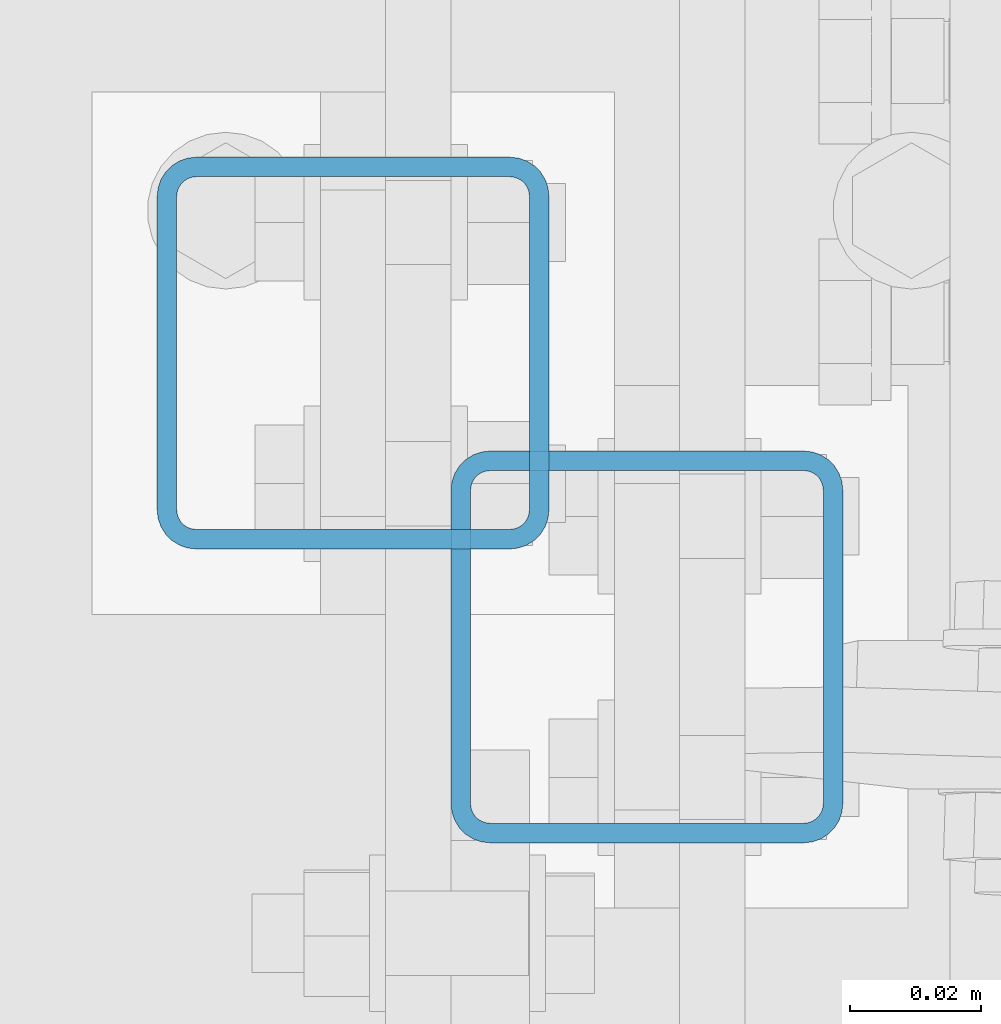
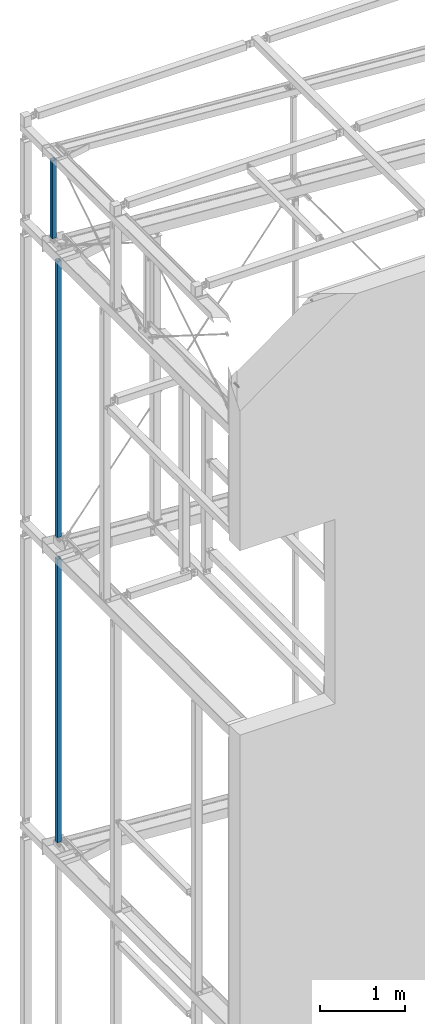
# One storey, part 26 of 271: 3 beams, 3 elements without a shape of their own.
"""IFC2X3 building model written with IfcOpenShell, lengths in millimetres."""

from ifc_helpers import new_model, si_unit, frame, origin_with_axes, origin_2d_with_axis, place, context, subcontext, project, spatial, hollow_rectangle, extrude, clip, halfspace, material, type_object, element, aggregate, save


model = new_model("IFC2X3")

# Units and contexts
model_context = context("Model", 3, precision=1e-05, world=origin_with_axes())
body_context = subcontext(model_context, "Body", "Model", "MODEL_VIEW")
ifc_project = project(units=[si_unit("LENGTHUNIT", "METRE", prefix="MILLI"), si_unit("AREAUNIT", "SQUARE_METRE"), si_unit("VOLUMEUNIT", "CUBIC_METRE"), si_unit("MASSUNIT", "GRAM", prefix="KILO"), si_unit("TIMEUNIT", "SECOND"), si_unit("PLANEANGLEUNIT", "RADIAN"), si_unit("SOLIDANGLEUNIT", "STERADIAN"), si_unit("THERMODYNAMICTEMPERATUREUNIT", "DEGREE_CELSIUS"), si_unit("LUMINOUSINTENSITYUNIT", "LUMEN")], contexts=[model_context])

# Site, building, storey
site_placement = place(None, origin_with_axes())
site = spatial("IfcSite", under=ifc_project, at=site_placement, Name="Undefined", CompositionType="ELEMENT")
building_placement = place(site_placement, origin_with_axes())
building = spatial("IfcBuilding", under=site, at=building_placement, Name="Undefined", CompositionType="ELEMENT")
storey_placement = place(building_placement, origin_with_axes())
storey = spatial("IfcBuildingStorey", under=building, at=storey_placement, Name="Undefined", CompositionType="ELEMENT", Elevation=0.0)

# Assembly, beam
assembly_1_placement = place(storey_placement, origin_with_axes())
assembly_1 = element("IfcElementAssembly", 1, at=assembly_1_placement, inside=storey, AssemblyPlace="NOTDEFINED", PredefinedType="RIGID_FRAME")
ifc_material = material(Name="STEEL/S355JR")
beam_type = type_object("IfcBeamType", Name="SHS60*3", PredefinedType="NOTDEFINED")
beam_1_placement = place(assembly_1_placement, frame((77.9999996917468, 4337.19355050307, 18644.3499999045), z_axis=(0.0, 1.0, 0.0), x_axis=(0.0, 0.0, 1.0)))
beam_1 = element("IfcBeam", 2, at=beam_1_placement, type_object=beam_type, material=ifc_material, Name="TĘŻNIK", ObjectType="SHS60*3", context=body_context, shape_type="Clipping", body=[
    clip(clip(extrude(hollow_rectangle(XDim=60.0, YDim=60.0, WallThickness=3.0, InnerFilletRadius=3.0, OuterFilletRadius=6.0, at=origin_2d_with_axis()), frame((1360.0, 0.0, 0.0), z_axis=(-1.0, 0.0, 1.38777878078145e-17), x_axis=(0.0, -1.0, 0.0)), (0.0, 0.0, 1.0), 1360.0), halfspace(frame((1249.3499999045, 15.0, 0.0), z_axis=(-1.0, 0.0, 1.38777878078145e-17), x_axis=(0.0, 0.0, 1.0)), True)), halfspace(frame((131.299999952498, 15.0, 0.0), z_axis=(1.0, 0.0, 0.0), x_axis=(0.0, 0.0, -1.0)), True)),
])
aggregate(assembly_1, [beam_1])

assembly_2_placement = place(storey_placement, origin_with_axes())
assembly_2 = element("IfcElementAssembly", 3, at=assembly_2_placement, inside=storey, AssemblyPlace="NOTDEFINED", PredefinedType="RIGID_FRAME")
beam_2_placement = place(assembly_2_placement, frame((122.999999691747, 4292.19355050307, 14324.3499999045), z_axis=(0.0, 1.0, 0.0), x_axis=(0.0, 0.0, 1.0)))
beam_2 = element("IfcBeam", 4, at=beam_2_placement, type_object=beam_type, material=ifc_material, Name="TĘŻNIK", ObjectType="SHS60*3", context=body_context, shape_type="Clipping", body=[
    clip(clip(extrude(hollow_rectangle(XDim=60.0, YDim=60.0, WallThickness=3.0, InnerFilletRadius=3.0, OuterFilletRadius=6.0, at=origin_2d_with_axis()), frame((4320.0, 0.0, 9.09494701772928e-13), z_axis=(-1.0, 0.0, 1.38777878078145e-17), x_axis=(0.0, -1.0, 0.0)), (0.0, 0.0, 1.0), 4320.0), halfspace(frame((4138.7000000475, 15.0, 0.0), z_axis=(-1.0, 0.0, 1.38777878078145e-17), x_axis=(0.0, 0.0, 1.0)), True)), halfspace(frame((181.2999999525, 15.0, 0.0), z_axis=(1.0, 0.0, 0.0), x_axis=(0.0, 0.0, -1.0)), True)),
])
aggregate(assembly_2, [beam_2])

assembly_3_placement = place(storey_placement, origin_with_axes())
assembly_3 = element("IfcElementAssembly", 5, at=assembly_3_placement, inside=storey, AssemblyPlace="NOTDEFINED", PredefinedType="RIGID_FRAME")
beam_3_placement = place(assembly_3_placement, frame((122.999999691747, 4292.19355050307, 10004.3499999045), z_axis=(0.0, 1.0, 0.0), x_axis=(0.0, 0.0, 1.0)))
beam_3 = element("IfcBeam", 6, at=beam_3_placement, type_object=beam_type, material=ifc_material, Name="TĘŻNIK", ObjectType="SHS60*3", context=body_context, shape_type="Clipping", body=[
    clip(clip(extrude(hollow_rectangle(XDim=60.0, YDim=60.0, WallThickness=3.0, InnerFilletRadius=3.0, OuterFilletRadius=6.0, at=origin_2d_with_axis()), frame((4320.0, 0.0, 9.09494701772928e-13), z_axis=(-1.0, 0.0, 1.38777878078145e-17), x_axis=(0.0, -1.0, 0.0)), (0.0, 0.0, 1.0), 4320.0), halfspace(frame((4188.7000000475, 15.0, 0.0), z_axis=(-1.0, 0.0, 1.38777878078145e-17), x_axis=(0.0, 0.0, 1.0)), True)), halfspace(frame((131.299999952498, 15.0, 0.0), z_axis=(1.0, 0.0, 0.0), x_axis=(0.0, 0.0, -1.0)), True)),
])
aggregate(assembly_3, [beam_3])

save(model, "model.ifc")
